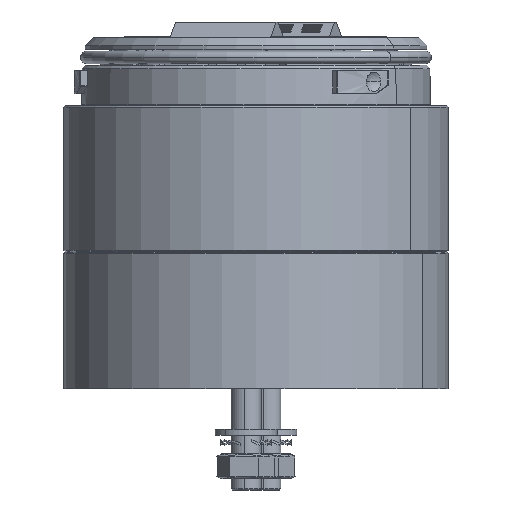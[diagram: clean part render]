
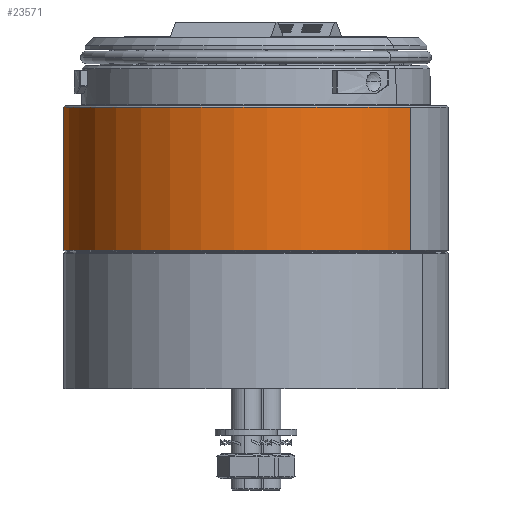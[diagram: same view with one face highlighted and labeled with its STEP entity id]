
A CAD part, left-side view. The second image highlights one B-rep face of the part: STEP entity #23571.
In plain terms, the highlighted cylindrical face has radius 31 mm (diameter 62 mm), a partial arc.
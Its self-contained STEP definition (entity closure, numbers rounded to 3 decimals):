
#16361=DIRECTION('',(0.,0.,-1.));
#16362=VECTOR('',#16361,23.1);
#16363=CARTESIAN_POINT('',(-18.488,-24.884,33.375));
#16364=LINE('',#16363,#16362);
#16373=DIRECTION('',(0.,0.,-1.));
#16374=VECTOR('',#16373,23.1);
#16375=CARTESIAN_POINT('',(18.488,24.884,33.375));
#16376=LINE('',#16375,#16374);
#17760=CARTESIAN_POINT('',(0.,0.,10.275));
#17761=DIRECTION('',(0.,0.,-1.));
#17762=DIRECTION('',(-0.596,-0.803,0.));
#17763=AXIS2_PLACEMENT_3D('',#17760,#17761,#17762);
#20035=CARTESIAN_POINT('',(0.,0.,33.375));
#20036=DIRECTION('',(0.,0.,1.));
#20037=DIRECTION('',(0.596,0.803,0.));
#20038=AXIS2_PLACEMENT_3D('',#20035,#20036,#20037);
#23128=CARTESIAN_POINT('',(18.488,24.884,33.375));
#23129=CARTESIAN_POINT('',(18.488,24.884,10.275));
#23130=VERTEX_POINT('',#23128);
#23131=VERTEX_POINT('',#23129);
#23132=CARTESIAN_POINT('',(-18.488,-24.884,33.375));
#23133=CARTESIAN_POINT('',(-18.488,-24.884,10.275));
#23134=VERTEX_POINT('',#23132);
#23135=VERTEX_POINT('',#23133);
#23556=CARTESIAN_POINT('',(0.,0.,10.075));
#23557=DIRECTION('',(0.,0.,-1.));
#23558=DIRECTION('',(-0.596,-0.803,0.));
#23559=AXIS2_PLACEMENT_3D('',#23556,#23557,#23558);
#23560=CYLINDRICAL_SURFACE('',#23559,31.);
#23562=ORIENTED_EDGE('',*,*,#23561,.T.);
#23564=ORIENTED_EDGE('',*,*,#23563,.F.);
#23566=ORIENTED_EDGE('',*,*,#23565,.T.);
#23568=ORIENTED_EDGE('',*,*,#23567,.T.);
#23569=EDGE_LOOP('',(#23562,#23564,#23566,#23568));
#23570=FACE_OUTER_BOUND('',#23569,.F.);
#23571=ADVANCED_FACE('',(#23570),#23560,.T.);
#17764=CIRCLE('',#17763,31.);
#20039=CIRCLE('',#20038,31.);
#23561=EDGE_CURVE('',#23135,#23131,#17764,.T.);
#23563=EDGE_CURVE('',#23130,#23131,#16376,.T.);
#23565=EDGE_CURVE('',#23130,#23134,#20039,.T.);
#23567=EDGE_CURVE('',#23134,#23135,#16364,.T.);
